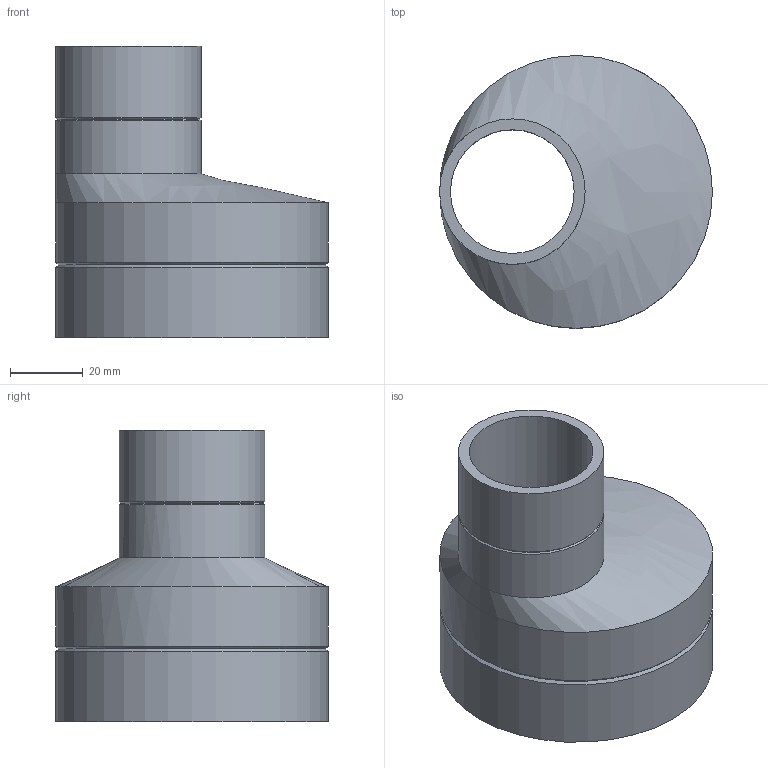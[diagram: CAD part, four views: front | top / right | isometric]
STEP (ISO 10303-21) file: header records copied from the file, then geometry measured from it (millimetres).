
FILE_DESCRIPTION(/* description */ (''),/* implementation_level */ '2;1');
FILE_NAME(/* name */ 'Z:\Geberit\Export\NewStep\365558.stp',/* time_stamp */ '2014-04-02T07:34:23+02:00',/* author */ ('nelson'),/* organization */ (''),/* preprocessor_version */ 'ST-DEVELOPER v15.2',/* originating_system */ 'Autodesk Inventor 2014',/* authorisation */ '');
FILE_SCHEMA (('AUTOMOTIVE_DESIGN { 1 0 10303 214 3 1 1 }'));
Length unit declared in the file: millimetre
Products named in the file (1): 365558
Bounding box: 75 x 75 x 80 mm (x, y, z)
Volume: 41276.9 mm3; surface area: 33070.8 mm2
Topology: 1 solids, 1 shells, 14 faces, 35 edges, 23 vertices
Faces by surface type: cylinder 6, cone 4, bspline 2, plane 2
Full cylindrical faces by diameter (mm): 34 x1, 40 x2, 69 x1, 75 x2
Entity records: 397 total; most frequent: CARTESIAN_POINT 89, DIRECTION 62, ORIENTED_EDGE 40, AXIS2_PLACEMENT_3D 31, EDGE_LOOP 26, EDGE_CURVE 20, CIRCLE 18, VERTEX_POINT 18
